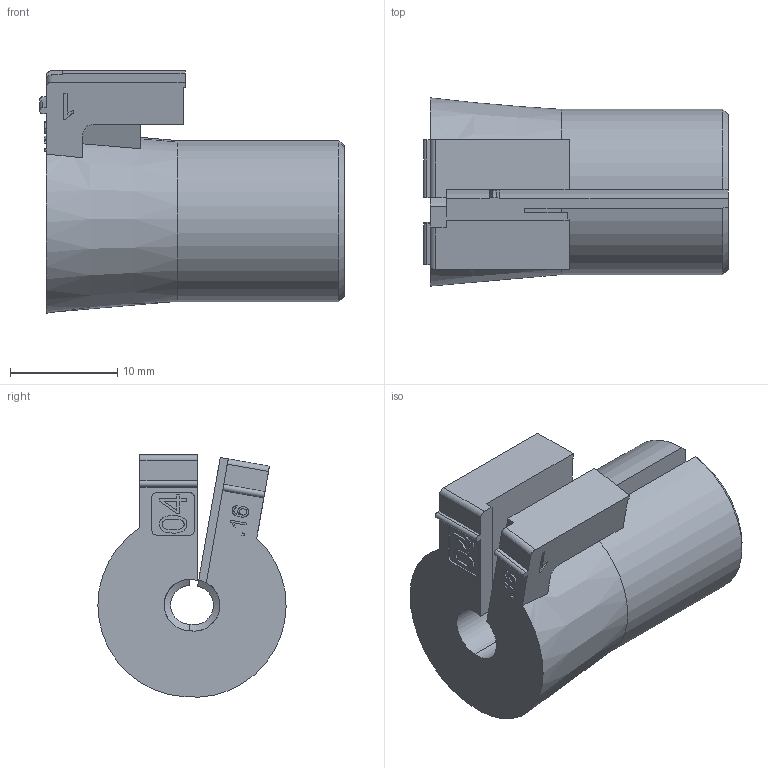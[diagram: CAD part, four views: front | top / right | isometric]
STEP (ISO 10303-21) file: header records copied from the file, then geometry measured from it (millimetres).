
FILE_DESCRIPTION(/* description */ (''),/* implementation_level */ '2;1');
FILE_NAME(/* name */ 'C:\SapWorkDir\Inventor\MP1\ConvertTempPath\87_12_121347_00_A_220530_KDT-X 04.stp',/* time_stamp */ '2022-05-31T09:33:02+02:00',/* author */ ('BAUER'),/* organization */ (''),/* preprocessor_version */ 'ST-DEVELOPER v16.13',/* originating_system */ 'Autodesk Inventor 2018',/* authorisation */ '');
FILE_SCHEMA (('AUTOMOTIVE_DESIGN { 1 0 10303 214 3 1 1 }'));
Length unit declared in the file: millimetre
Products named in the file (1): 121347
Bounding box: 28.4 x 17.56 x 22.59 mm (x, y, z)
Volume: 5271.1 mm3; surface area: 2949.4 mm2
Topology: 1 solids, 1 shells, 135 faces, 363 edges, 240 vertices
Faces by surface type: plane 78, bspline 29, cylinder 20, cone 8
Entity records: 4485 total; most frequent: CARTESIAN_POINT 1123, ORIENTED_EDGE 726, DIRECTION 562, EDGE_CURVE 363, LINE 244, VECTOR 244, VERTEX_POINT 240, AXIS2_PLACEMENT_3D 159
